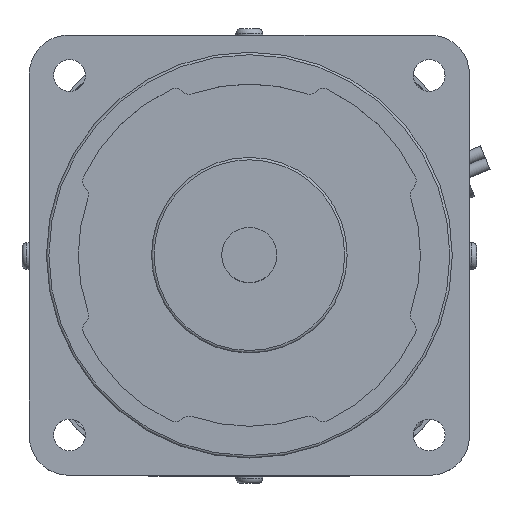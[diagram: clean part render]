
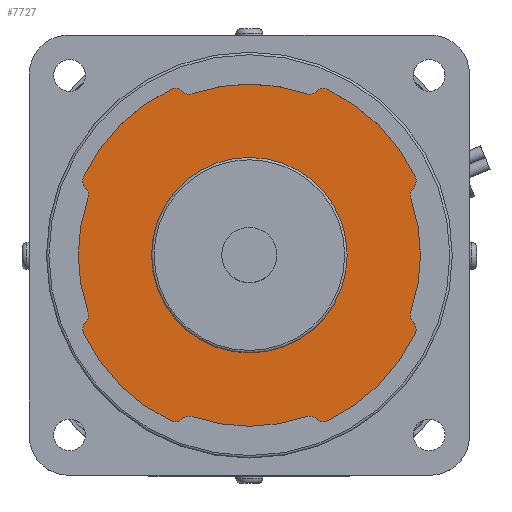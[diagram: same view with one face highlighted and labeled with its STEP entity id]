
A CAD part, top view. The second image highlights one B-rep face of the part: STEP entity #7727.
In plain terms, the highlighted planar face has unit normal (0, 0, 1).
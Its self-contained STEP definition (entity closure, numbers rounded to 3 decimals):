
#1316=CARTESIAN_POINT('',(20.0,0.,116.0));
#1317=VERTEX_POINT('',#1316);
#1318=CARTESIAN_POINT('',(0.,0.,116.0));
#1319=DIRECTION('',(0.0,0.0,-1.0));
#1320=DIRECTION('',(-1.0,0.0,0.0));
#1321=AXIS2_PLACEMENT_3D('',#1318,#1319,#1320);
#1322=CIRCLE('',#1321,20.0);
#1323=EDGE_CURVE('',#1317,#1317,#1322,.T.);
#1346=CARTESIAN_POINT('',(-13.722,-33.501,116.0));
#1347=VERTEX_POINT('',#1346);
#1363=CARTESIAN_POINT('',(-11.626,-33.013,116.0));
#1364=VERTEX_POINT('',#1363);
#1371=CARTESIAN_POINT('',(-12.291,-34.899,116.0));
#1372=DIRECTION('',(0.0,0.0,-1.0));
#1373=DIRECTION('',(-0.408,0.913,0.0));
#1374=AXIS2_PLACEMENT_3D('',#1371,#1372,#1373);
#1375=CIRCLE('',#1374,2.0);
#1376=EDGE_CURVE('',#1364,#1347,#1375,.F.);
#1396=CARTESIAN_POINT('',(11.626,-33.013,116.0));
#1397=VERTEX_POINT('',#1396);
#1404=CARTESIAN_POINT('',(0.,0.,116.));
#1405=DIRECTION('',(0.,0.,1.0));
#1406=DIRECTION('',(-0.383,-0.924,0.));
#1407=AXIS2_PLACEMENT_3D('',#1404,#1405,#1406);
#1408=CIRCLE('',#1407,35.0);
#1409=EDGE_CURVE('',#1364,#1397,#1408,.T.);
#1419=CARTESIAN_POINT('',(13.722,-33.501,116.0));
#1420=VERTEX_POINT('',#1419);
#1429=CARTESIAN_POINT('',(12.291,-34.899,116.0));
#1430=DIRECTION('',(0.0,0.0,-1.0));
#1431=DIRECTION('',(0.408,0.913,0.0));
#1432=AXIS2_PLACEMENT_3D('',#1429,#1430,#1431);
#1433=CIRCLE('',#1432,2.0);
#1434=EDGE_CURVE('',#1420,#1397,#1433,.F.);
#1461=CARTESIAN_POINT('',(16.006,-33.913,116.0));
#1462=VERTEX_POINT('',#1461);
#1469=CARTESIAN_POINT('',(15.152,-32.104,116.0));
#1470=DIRECTION('',(0.0,0.0,1.0));
#1471=DIRECTION('',(0.715,0.699,0.0));
#1472=AXIS2_PLACEMENT_3D('',#1469,#1470,#1471);
#1473=CIRCLE('',#1472,2.);
#1474=EDGE_CURVE('',#1420,#1462,#1473,.T.);
#1485=CARTESIAN_POINT('',(33.913,-16.006,116.0));
#1486=VERTEX_POINT('',#1485);
#1495=CARTESIAN_POINT('',(0.,0.,116.));
#1496=DIRECTION('',(0.,0.,1.0));
#1497=DIRECTION('',(0.383,-0.924,0.));
#1498=AXIS2_PLACEMENT_3D('',#1495,#1496,#1497);
#1499=CIRCLE('',#1498,37.5);
#1500=EDGE_CURVE('',#1462,#1486,#1499,.T.);
#1527=CARTESIAN_POINT('',(33.501,-13.722,116.0));
#1528=VERTEX_POINT('',#1527);
#1535=CARTESIAN_POINT('',(32.104,-15.152,116.0));
#1536=DIRECTION('',(0.0,0.0,1.0));
#1537=DIRECTION('',(-0.904,0.427,0.0));
#1538=AXIS2_PLACEMENT_3D('',#1535,#1536,#1537);
#1539=CIRCLE('',#1538,2.);
#1540=EDGE_CURVE('',#1486,#1528,#1539,.T.);
#1561=CARTESIAN_POINT('',(33.013,-11.626,116.0));
#1562=VERTEX_POINT('',#1561);
#1569=CARTESIAN_POINT('',(34.899,-12.291,116.0));
#1570=DIRECTION('',(0.0,0.0,-1.0));
#1571=DIRECTION('',(-0.913,-0.408,0.0));
#1572=AXIS2_PLACEMENT_3D('',#1569,#1570,#1571);
#1573=CIRCLE('',#1572,2.0);
#1574=EDGE_CURVE('',#1562,#1528,#1573,.F.);
#1584=CARTESIAN_POINT('',(33.013,11.626,116.0));
#1585=VERTEX_POINT('',#1584);
#1594=CARTESIAN_POINT('',(0.,0.,116.));
#1595=DIRECTION('',(0.,0.,1.0));
#1596=DIRECTION('',(0.924,-0.383,0.));
#1597=AXIS2_PLACEMENT_3D('',#1594,#1595,#1596);
#1598=CIRCLE('',#1597,35.);
#1599=EDGE_CURVE('',#1562,#1585,#1598,.T.);
#1617=CARTESIAN_POINT('',(33.501,13.722,116.0));
#1618=VERTEX_POINT('',#1617);
#1627=CARTESIAN_POINT('',(34.899,12.291,116.0));
#1628=DIRECTION('',(0.0,0.0,-1.0));
#1629=DIRECTION('',(-0.913,0.408,0.0));
#1630=AXIS2_PLACEMENT_3D('',#1627,#1628,#1629);
#1631=CIRCLE('',#1630,2.0);
#1632=EDGE_CURVE('',#1618,#1585,#1631,.F.);
#1659=CARTESIAN_POINT('',(33.913,16.006,116.0));
#1660=VERTEX_POINT('',#1659);
#1667=CARTESIAN_POINT('',(32.104,15.152,116.0));
#1668=DIRECTION('',(0.0,0.0,1.0));
#1669=DIRECTION('',(-0.699,0.715,0.0));
#1670=AXIS2_PLACEMENT_3D('',#1667,#1668,#1669);
#1671=CIRCLE('',#1670,2.);
#1672=EDGE_CURVE('',#1618,#1660,#1671,.T.);
#1683=CARTESIAN_POINT('',(16.006,33.913,116.0));
#1684=VERTEX_POINT('',#1683);
#1693=CARTESIAN_POINT('',(0.,0.,116.));
#1694=DIRECTION('',(0.,0.,1.0));
#1695=DIRECTION('',(0.924,0.383,0.));
#1696=AXIS2_PLACEMENT_3D('',#1693,#1694,#1695);
#1697=CIRCLE('',#1696,37.5);
#1698=EDGE_CURVE('',#1660,#1684,#1697,.T.);
#1725=CARTESIAN_POINT('',(13.722,33.501,116.0));
#1726=VERTEX_POINT('',#1725);
#1733=CARTESIAN_POINT('',(15.152,32.104,116.0));
#1734=DIRECTION('',(0.0,0.0,1.0));
#1735=DIRECTION('',(-0.427,-0.904,0.0));
#1736=AXIS2_PLACEMENT_3D('',#1733,#1734,#1735);
#1737=CIRCLE('',#1736,2.);
#1738=EDGE_CURVE('',#1684,#1726,#1737,.T.);
#1759=CARTESIAN_POINT('',(11.626,33.013,116.0));
#1760=VERTEX_POINT('',#1759);
#1767=CARTESIAN_POINT('',(12.291,34.899,116.0));
#1768=DIRECTION('',(0.0,0.0,-1.0));
#1769=DIRECTION('',(0.408,-0.913,0.0));
#1770=AXIS2_PLACEMENT_3D('',#1767,#1768,#1769);
#1771=CIRCLE('',#1770,2.0);
#1772=EDGE_CURVE('',#1760,#1726,#1771,.F.);
#1782=CARTESIAN_POINT('',(-11.626,33.013,116.0));
#1783=VERTEX_POINT('',#1782);
#1792=CARTESIAN_POINT('',(0.,0.,116.));
#1793=DIRECTION('',(0.,0.,1.0));
#1794=DIRECTION('',(0.383,0.924,0.));
#1795=AXIS2_PLACEMENT_3D('',#1792,#1793,#1794);
#1796=CIRCLE('',#1795,35.0);
#1797=EDGE_CURVE('',#1760,#1783,#1796,.T.);
#1815=CARTESIAN_POINT('',(-13.722,33.501,116.0));
#1816=VERTEX_POINT('',#1815);
#1825=CARTESIAN_POINT('',(-12.291,34.899,116.0));
#1826=DIRECTION('',(0.0,0.0,-1.0));
#1827=DIRECTION('',(-0.408,-0.913,0.0));
#1828=AXIS2_PLACEMENT_3D('',#1825,#1826,#1827);
#1829=CIRCLE('',#1828,2.0);
#1830=EDGE_CURVE('',#1816,#1783,#1829,.F.);
#1857=CARTESIAN_POINT('',(-16.006,33.913,116.0));
#1858=VERTEX_POINT('',#1857);
#1865=CARTESIAN_POINT('',(-15.152,32.104,116.0));
#1866=DIRECTION('',(0.0,0.0,1.0));
#1867=DIRECTION('',(-0.715,-0.699,0.0));
#1868=AXIS2_PLACEMENT_3D('',#1865,#1866,#1867);
#1869=CIRCLE('',#1868,2.);
#1870=EDGE_CURVE('',#1816,#1858,#1869,.T.);
#1891=CARTESIAN_POINT('',(-33.913,16.006,116.0));
#1892=VERTEX_POINT('',#1891);
#1899=CARTESIAN_POINT('',(0.,0.,116.));
#1900=DIRECTION('',(0.,0.,1.0));
#1901=DIRECTION('',(-0.383,0.924,0.));
#1902=AXIS2_PLACEMENT_3D('',#1899,#1900,#1901);
#1903=CIRCLE('',#1902,37.5);
#1904=EDGE_CURVE('',#1858,#1892,#1903,.T.);
#1923=CARTESIAN_POINT('',(-33.501,13.722,116.0));
#1924=VERTEX_POINT('',#1923);
#1931=CARTESIAN_POINT('',(-32.104,15.152,116.0));
#1932=DIRECTION('',(0.0,0.0,1.0));
#1933=DIRECTION('',(0.904,-0.427,0.0));
#1934=AXIS2_PLACEMENT_3D('',#1931,#1932,#1933);
#1935=CIRCLE('',#1934,2.);
#1936=EDGE_CURVE('',#1892,#1924,#1935,.T.);
#1957=CARTESIAN_POINT('',(-33.013,11.626,116.0));
#1958=VERTEX_POINT('',#1957);
#1965=CARTESIAN_POINT('',(-34.899,12.291,116.0));
#1966=DIRECTION('',(0.0,0.0,-1.0));
#1967=DIRECTION('',(0.913,0.408,0.0));
#1968=AXIS2_PLACEMENT_3D('',#1965,#1966,#1967);
#1969=CIRCLE('',#1968,2.0);
#1970=EDGE_CURVE('',#1958,#1924,#1969,.F.);
#1980=CARTESIAN_POINT('',(-33.013,-11.626,116.0));
#1981=VERTEX_POINT('',#1980);
#1990=CARTESIAN_POINT('',(0.,0.,116.));
#1991=DIRECTION('',(0.,0.,1.0));
#1992=DIRECTION('',(-0.924,0.383,0.));
#1993=AXIS2_PLACEMENT_3D('',#1990,#1991,#1992);
#1994=CIRCLE('',#1993,35.0);
#1995=EDGE_CURVE('',#1958,#1981,#1994,.T.);
#2013=CARTESIAN_POINT('',(-33.501,-13.722,116.0));
#2014=VERTEX_POINT('',#2013);
#2023=CARTESIAN_POINT('',(-34.899,-12.291,116.0));
#2024=DIRECTION('',(0.0,0.0,-1.0));
#2025=DIRECTION('',(0.913,-0.408,0.0));
#2026=AXIS2_PLACEMENT_3D('',#2023,#2024,#2025);
#2027=CIRCLE('',#2026,2.0);
#2028=EDGE_CURVE('',#2014,#1981,#2027,.F.);
#2055=CARTESIAN_POINT('',(-33.913,-16.006,116.0));
#2056=VERTEX_POINT('',#2055);
#2063=CARTESIAN_POINT('',(-32.104,-15.152,116.0));
#2064=DIRECTION('',(0.0,0.0,1.0));
#2065=DIRECTION('',(0.699,-0.715,0.0));
#2066=AXIS2_PLACEMENT_3D('',#2063,#2064,#2065);
#2067=CIRCLE('',#2066,2.);
#2068=EDGE_CURVE('',#2014,#2056,#2067,.T.);
#2079=CARTESIAN_POINT('',(-16.006,-33.913,116.0));
#2080=VERTEX_POINT('',#2079);
#2089=CARTESIAN_POINT('',(0.,0.,116.));
#2090=DIRECTION('',(0.,0.,1.0));
#2091=DIRECTION('',(-0.924,-0.383,0.));
#2092=AXIS2_PLACEMENT_3D('',#2089,#2090,#2091);
#2093=CIRCLE('',#2092,37.5);
#2094=EDGE_CURVE('',#2056,#2080,#2093,.T.);
#2120=CARTESIAN_POINT('',(-15.152,-32.104,116.0));
#2121=DIRECTION('',(0.0,0.0,1.0));
#2122=DIRECTION('',(0.427,0.904,0.0));
#2123=AXIS2_PLACEMENT_3D('',#2120,#2121,#2122);
#2124=CIRCLE('',#2123,2.);
#2125=EDGE_CURVE('',#2080,#1347,#2124,.T.);
#7693=CARTESIAN_POINT('',(0.,0.,116.0));
#7694=DIRECTION('',(0.0,0.0,1.0));
#7695=DIRECTION('',(1.0,0.0,0.0));
#7696=AXIS2_PLACEMENT_3D('',#7693,#7694,#7695);
#7697=PLANE('',#7696);
#7698=ORIENTED_EDGE('',*,*,#2125,.T.);
#7699=ORIENTED_EDGE('',*,*,#1376,.F.);
#7700=ORIENTED_EDGE('',*,*,#1409,.T.);
#7701=ORIENTED_EDGE('',*,*,#1434,.F.);
#7702=ORIENTED_EDGE('',*,*,#1474,.T.);
#7703=ORIENTED_EDGE('',*,*,#1500,.T.);
#7704=ORIENTED_EDGE('',*,*,#1540,.T.);
#7705=ORIENTED_EDGE('',*,*,#1574,.F.);
#7706=ORIENTED_EDGE('',*,*,#1599,.T.);
#7707=ORIENTED_EDGE('',*,*,#1632,.F.);
#7708=ORIENTED_EDGE('',*,*,#1672,.T.);
#7709=ORIENTED_EDGE('',*,*,#1698,.T.);
#7710=ORIENTED_EDGE('',*,*,#1738,.T.);
#7711=ORIENTED_EDGE('',*,*,#1772,.F.);
#7712=ORIENTED_EDGE('',*,*,#1797,.T.);
#7713=ORIENTED_EDGE('',*,*,#1830,.F.);
#7714=ORIENTED_EDGE('',*,*,#1870,.T.);
#7715=ORIENTED_EDGE('',*,*,#1904,.T.);
#7716=ORIENTED_EDGE('',*,*,#1936,.T.);
#7717=ORIENTED_EDGE('',*,*,#1970,.F.);
#7718=ORIENTED_EDGE('',*,*,#1995,.T.);
#7719=ORIENTED_EDGE('',*,*,#2028,.F.);
#7720=ORIENTED_EDGE('',*,*,#2068,.T.);
#7721=ORIENTED_EDGE('',*,*,#2094,.T.);
#7722=EDGE_LOOP('',(#7698,#7699,#7700,#7701,#7702,#7703,#7704,#7705,#7706,#7707,#7708,#7709,#7710,#7711,#7712,#7713,#7714,#7715,#7716,#7717,#7718,#7719,#7720,#7721));
#7723=FACE_OUTER_BOUND('',#7722,.T.);
#7724=ORIENTED_EDGE('',*,*,#1323,.T.);
#7725=EDGE_LOOP('',(#7724));
#7726=FACE_BOUND('',#7725,.T.);
#7727=ADVANCED_FACE('',(#7723,#7726),#7697,.T.);
